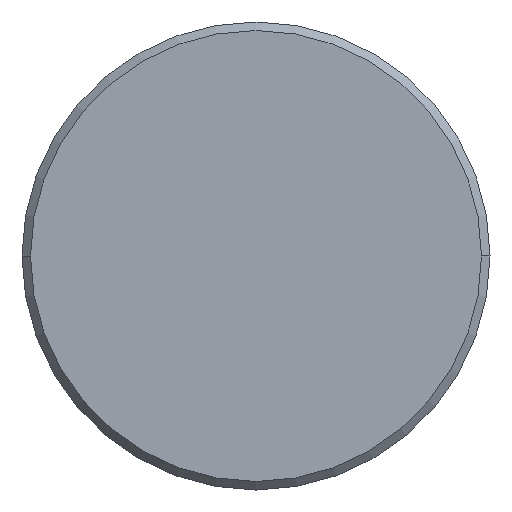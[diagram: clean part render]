
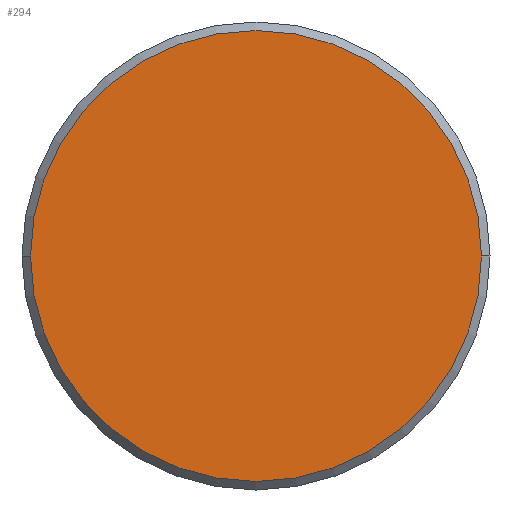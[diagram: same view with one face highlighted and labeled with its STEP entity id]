
A CAD part, left-side view. The second image highlights one B-rep face of the part: STEP entity #294.
In plain terms, the highlighted planar face has unit normal (-1, 0, 0).
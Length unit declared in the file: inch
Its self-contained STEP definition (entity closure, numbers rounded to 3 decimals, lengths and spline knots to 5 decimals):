
#46 = DIRECTION ( 'NONE',  ( 0., -1., 0. ) ) ;
#58 = EDGE_CURVE ( 'NONE', #119, #199, #247, .T. ) ;
#73 = ORIENTED_EDGE ( 'NONE', *, *, #352, .T. ) ;
#87 = FACE_OUTER_BOUND ( 'NONE', #198, .T. ) ;
#109 = CARTESIAN_POINT ( 'NONE',  ( 0., -0.10537, 0. ) ) ;
#119 = VERTEX_POINT ( 'NONE', #147 ) ;
#120 = AXIS2_PLACEMENT_3D ( 'NONE', #144, #204, #232 ) ;
#144 = CARTESIAN_POINT ( 'NONE',  ( 0., 0., 0. ) ) ;
#147 = CARTESIAN_POINT ( 'NONE',  ( 0., 0.10537, 0. ) ) ;
#174 = PLANE ( 'NONE',  #120 ) ;
#190 = CARTESIAN_POINT ( 'NONE',  ( 0., 0., 0. ) ) ;
#196 = CARTESIAN_POINT ( 'NONE',  ( 0., 0., 0. ) ) ;
#198 = EDGE_LOOP ( 'NONE', ( #237, #73 ) ) ;
#199 = VERTEX_POINT ( 'NONE', #109 ) ;
#204 = DIRECTION ( 'NONE',  ( -1., 0., 0. ) ) ;
#221 = DIRECTION ( 'NONE',  ( -1., 0., 0. ) ) ;
#232 = DIRECTION ( 'NONE',  ( 0., -1., 0. ) ) ;
#237 = ORIENTED_EDGE ( 'NONE', *, *, #58, .T. ) ;
#247 = CIRCLE ( 'NONE', #368, 0.10537 ) ;
#278 = AXIS2_PLACEMENT_3D ( 'NONE', #190, #221, #46 ) ;
#294 = ADVANCED_FACE ( 'NONE', ( #87 ), #174, .T. ) ;
#297 = CIRCLE ( 'NONE', #278, 0.10537 ) ;
#330 = DIRECTION ( 'NONE',  ( -1., 0., 0. ) ) ;
#352 = EDGE_CURVE ( 'NONE', #199, #119, #297, .T. ) ;
#356 = DIRECTION ( 'NONE',  ( 0., -1., 0. ) ) ;
#368 = AXIS2_PLACEMENT_3D ( 'NONE', #196, #330, #356 ) ;
